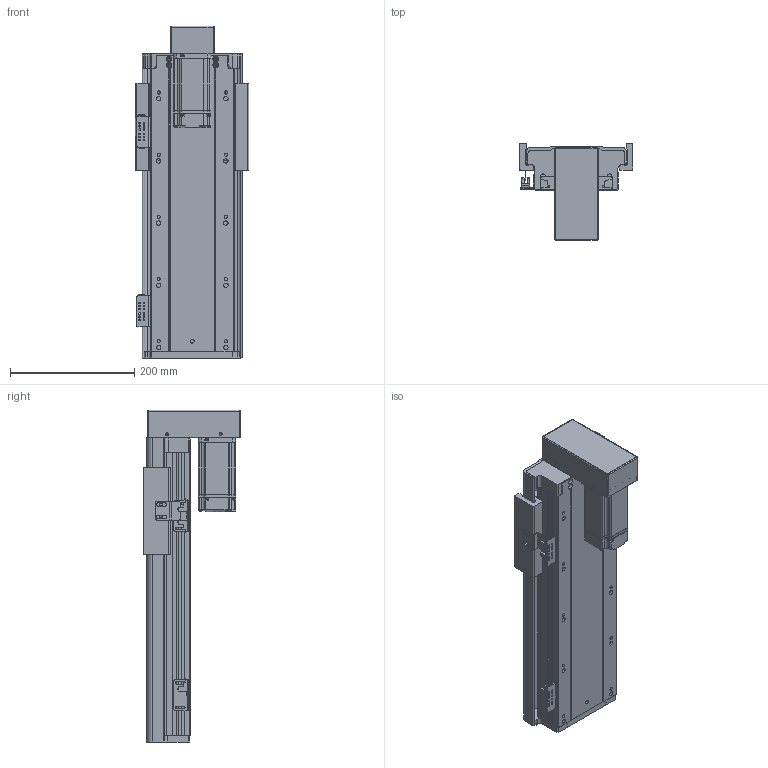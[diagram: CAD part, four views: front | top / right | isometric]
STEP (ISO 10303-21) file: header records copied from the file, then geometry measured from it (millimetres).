
FILE_DESCRIPTION (( 'STEP AP203' ), '1' );
FILE_NAME ('RY140FB-L2010-300-BK.SLDASM_250.step', '2021-02-23T02:28:37', ( '盈信电脑' ), ( '东莞市道滘镇水果街19号' ), 'SwSTEP 2.0', 'SolidWorks 2012', '' );
FILE_SCHEMA (( 'CONFIG_CONTROL_DESIGN' ));
Length unit declared in the file: millimetre
Products named in the file (17): RY140FB-覜茼え; RY140-674嫖萇耀輸; RY140FB-L2010-300-BK.SLDASM_250; RY140FB-300蛌殏奻裔啣-BK_250; RY140FB-20佪裝臏賑輸; 覜茼ん674; RY140直线电机感应器674光电安装座; RY140狟殏萇儂欶; 15; RY140FB-狟殏萇儂假蚾啣; 侂狟400W侜督萇儂; RY140FB-转折电机端支撑座(7002); 滅袉蝶18-24; 滅袉蝶18-10; RY140FB-300蛌殏倰第菁釱-BK_250; RY140FB-綴裔啣
Assembly tree (20 placements, depth 3):
  RY140FB-L2010-300-BK.SLDASM_250
    RY140FB-300蛌殏倰第菁釱-BK_250
    RY140FB-綴裔啣
    滅袉蝶18-24  x2
    滅袉蝶18-10
    RY140FB-转折电机端支撑座(7002)
    侂狟400W侜督萇儂
      15
    RY140狟殏萇儂欶
    RY140FB-狟殏萇儂假蚾啣
    RY140FB-20佪裝臏賑輸
    RY140FB-300蛌殏奻裔啣-BK_250
    RY140-674嫖萇耀輸
      覜茼ん674  x2
      RY140直线电机感应器674光电安装座
    RY140-674嫖萇耀輸
      RY140直线电机感应器674光电安装座
      覜茼ん674
    RY140FB-覜茼え
Bounding box: 183 x 156 x 534 mm (x, y, z)
Volume: 2614983.2 mm3; surface area: 816400 mm2
Topology: 17 solids, 17 shells, 1654 faces, 4501 edges, 2875 vertices
Faces by surface type: cylinder 765, plane 723, cone 138, bspline 28
Entity records: 49403 total; most frequent: CARTESIAN_POINT 9809, DIRECTION 8026, ORIENTED_EDGE 7774, EDGE_CURVE 3887, AXIS2_PLACEMENT_3D 2872, VERTEX_POINT 2543, VECTOR 2282, LINE 2282
